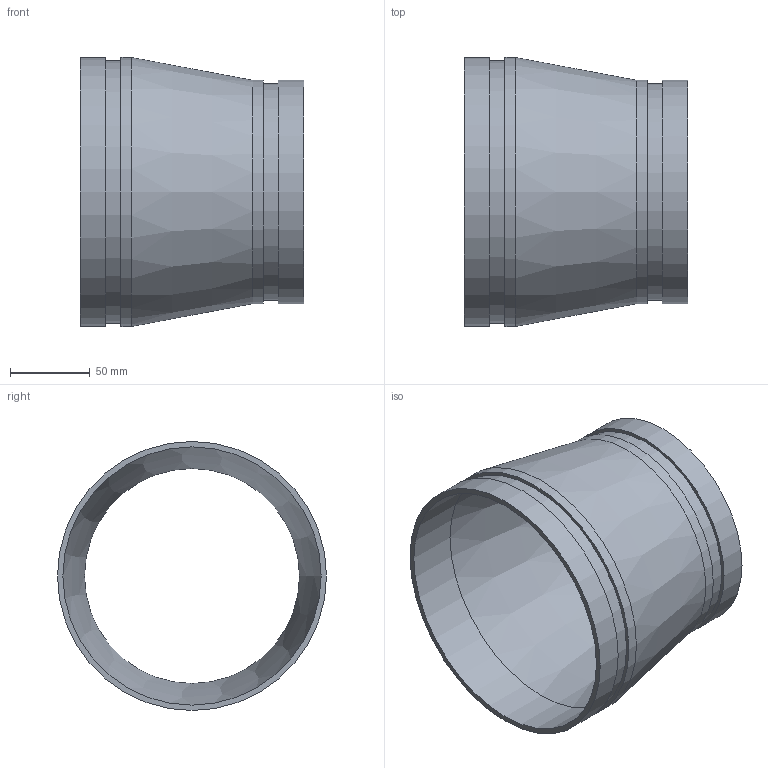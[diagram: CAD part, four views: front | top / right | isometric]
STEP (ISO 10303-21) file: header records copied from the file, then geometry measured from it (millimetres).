
FILE_DESCRIPTION(/* description */ ('VIC REDUCER CONCENTRIC No 450-SS','CAx-IF Rec.Pracs.---Representation and Presentation of Product Manufacturing Information (PMI)---4.0---2014-10-13'),/* implementation_level */ '2;1');
FILE_NAME(/* name */ 'C:\Users\kkamble\AppData\Roaming\Autodesk\ApplicationPlugins\Back Up\Victaulic_SS-OGS_Reducer Concentric_Sched 10S_No 450 SS (OGS)\Victaulic_SS-OGS_Reducer Concentric_Sched 10S_No 450 SS (OGS)_06.0x05.0 (139.7) (150x125).stp',/* time_stamp */ '2020-09-08T12:33:37+05:00',/* author */ ('CORINNE GRAY'),/* organization */ ('Victaulic'),/* preprocessor_version */ 'ST-DEVELOPER v17.2',/* originating_system */ 'Autodesk Inventor 2019',/* authorisation */ '');
FILE_SCHEMA (('AP242_MANAGED_MODEL_BASED_3D_ENGINEERING_MIM_LF { 1 0 10303 442 1 1 4 }'));
Length unit declared in the file: inch
Products named in the file (1): 450 SS-06.0x05.0 (139.7)
Bounding box: 139.7 x 168.28 x 168.28 mm (x, y, z)
Volume: 179863.1 mm3; surface area: 140434.2 mm2
Topology: 1 solids, 1 shells, 16 faces, 42 edges, 32 vertices
Faces by surface type: cylinder 8, plane 6, cone 2
Full cylindrical faces by diameter (mm): 134.493 x1, 135.484 x1, 139.7 x2, 161.544 x1, 163.957 x1, 168.275 x2
Entity records: 686 total; most frequent: DIRECTION 134, CARTESIAN_POINT 108, ORIENTED_EDGE 84, AXIS2_PLACEMENT_3D 62, EDGE_CURVE 42, CIRCLE 32, VERTEX_POINT 32, EDGE_LOOP 22
